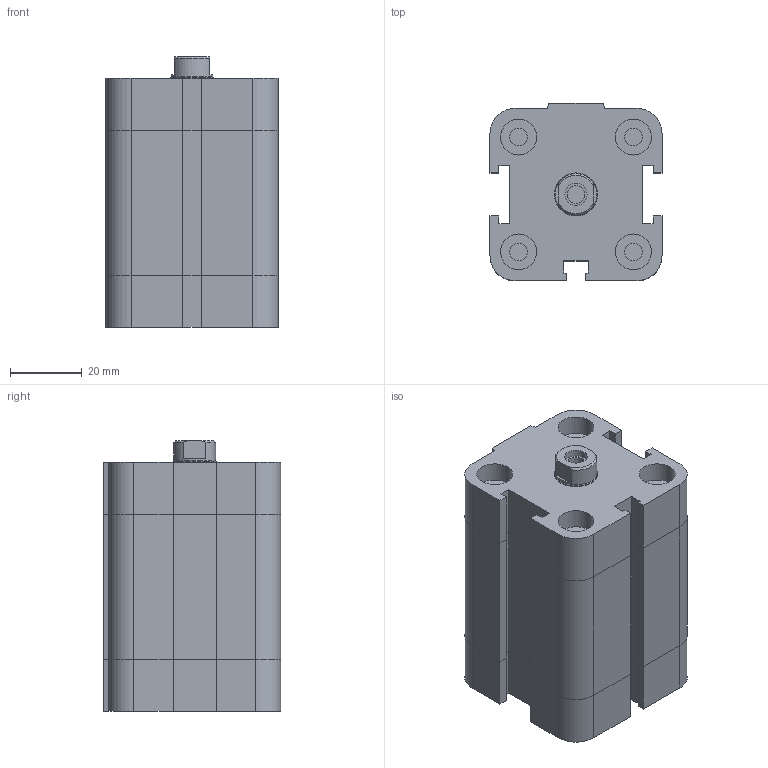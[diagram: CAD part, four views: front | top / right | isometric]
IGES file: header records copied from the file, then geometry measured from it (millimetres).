
Global section: file name: No Iges File Name specified; native system: Autodesk Inventor 2009; preprocessor: AutoDesk Inventor Iges Exporter R2009; author: rivolro1; date: 20081219.154152; units: millimetre
Bounding box: 48 x 49.5 x 75.5 mm (x, y, z)
Volume: 139698.6 mm3; surface area: 27854 mm2
Topology: 2 solids, 2 shells, 187 faces, 410 edges, 248 vertices
Faces by surface type: plane 112, bspline 39, revolution 16, cylinder 16, cone 4
